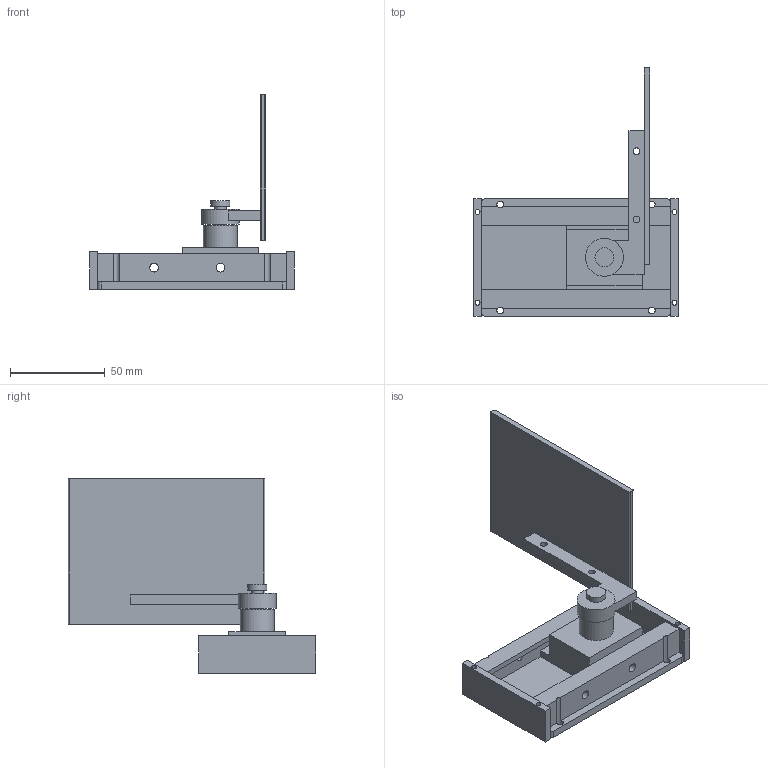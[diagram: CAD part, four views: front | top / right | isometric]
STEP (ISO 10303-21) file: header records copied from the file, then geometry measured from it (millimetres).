
FILE_DESCRIPTION(('Open CASCADE Model'),'2;1');
FILE_NAME('Open CASCADE Shape Model','2026-09-20T04:25:34',('Author'),( 'Open CASCADE'),'Open CASCADE STEP processor 7.9','Open CASCADE 7.9' ,'Unknown');
FILE_SCHEMA(('AUTOMOTIVE_DESIGN { 1 0 10303 214 1 1 1 1 }'));
Length unit declared in the file: millimetre
Products named in the file (8): 528ce498-b4ab-11f1-bca5-a68942af9f2b; H01_CAPTURED_SLIDE_BASE; H02_TRANSLATING_CARRIAGE; H03_SWING_LEAF; H04_REAR_END_CAP; H05_FRONT_END_CAP; H06_PIVOT_PIN_REFERENCE; H08_DUMMY_PANEL
Assembly tree (7 placements, depth 2):
  528ce498-b4ab-11f1-bca5-a68942af9f2b
    H01_CAPTURED_SLIDE_BASE
    H02_TRANSLATING_CARRIAGE
    H03_SWING_LEAF
    H04_REAR_END_CAP
    H05_FRONT_END_CAP
    H06_PIVOT_PIN_REFERENCE
    H08_DUMMY_PANEL
Bounding box: 108 x 131 x 103 mm (x, y, z)
Volume: 107325.1 mm3; surface area: 57643.8 mm2
Topology: 7 solids, 7 shells, 93 faces, 240 edges, 160 vertices
Faces by surface type: plane 64, cylinder 29
Full cylindrical faces by diameter (mm): 2.6 x4, 3.6 x6, 4.6 x5, 6 x1, 6.6 x2, 10 x1, 18 x1, 20 x1
Entity records: 6222 total; most frequent: CARTESIAN_POINT 1045, DIRECTION 968, LINE 564, VECTOR 564, ORIENTED_EDGE 480, PCURVE 480, DEFINITIONAL_REPRESENTATION 480, EDGE_CURVE 240
